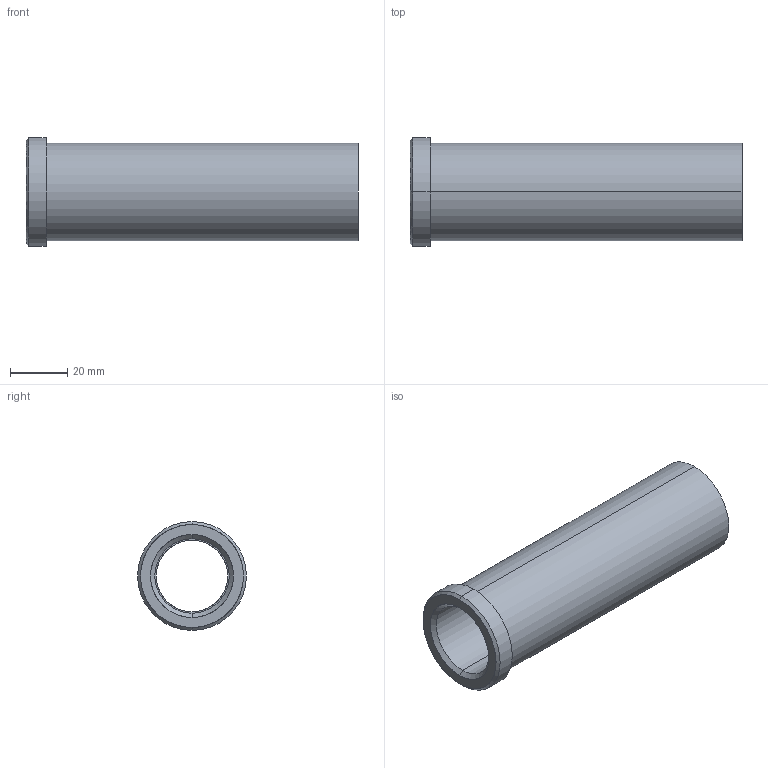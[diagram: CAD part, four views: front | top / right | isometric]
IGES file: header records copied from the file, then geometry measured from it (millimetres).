
Start section: START RECORD GO HERE.
Global section: file name: 353-25X116.igs; native system: DASSAULT SYSTEMES CATIA V5 R20 - www.3ds.com; preprocessor: CATIA Version 5 Release 20 ; author: Utente; organization: NB04-ASUS; date: 20210512.203227; units: millimetre
Bounding box: 116 x 38 x 38 mm (x, y, z)
Surface area: 22877.1 mm2 (no closed solid volume)
Topology: 0 solids, 0 shells, 18 faces, 116 edges, 116 vertices
Faces by surface type: revolution 14, plane 4
